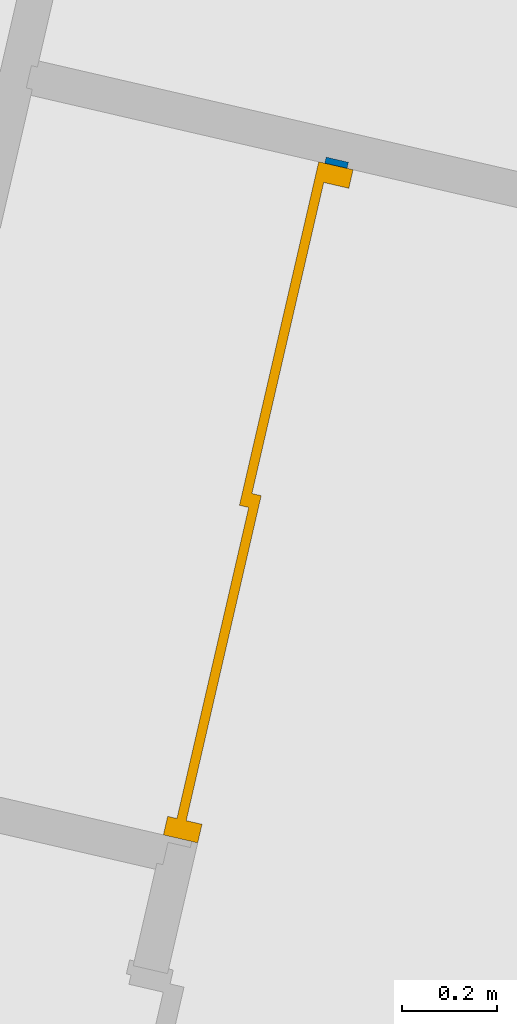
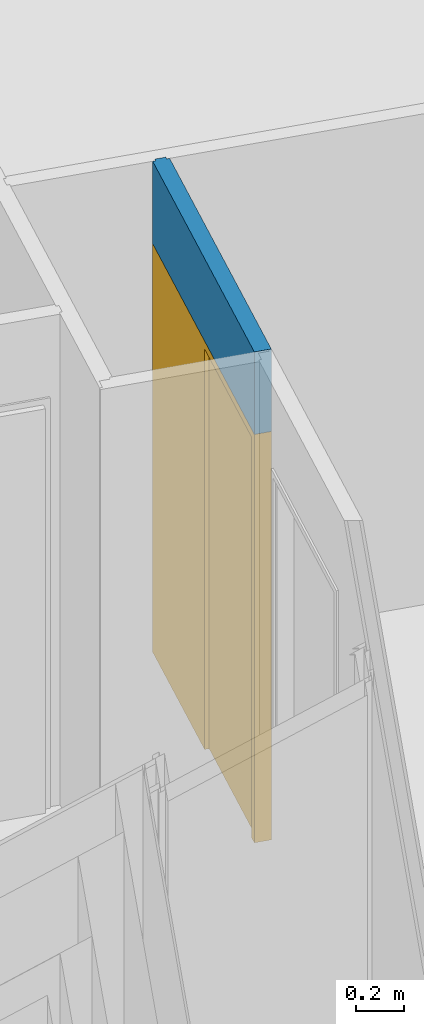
# One storey, part 23 of 91: 1 door, 1 wall, 1 opening.
"""IFC2X3 building model written with IfcOpenShell, lengths in metres."""

from ifc_helpers import new_model, entity, si_unit, converted_unit, derived_unit, money_unit, direction, frame, origin_with_axes, place, context, subcontext, project, spatial, faceted_brep, source, transform, mapped, material, material_list, type_object, element, fill, save


model = new_model("IFC2X3")

# Units and contexts
model_context = context("Model", 3, precision=1e-05, world=origin_with_axes(), true_north=direction((0.0, 1.0)))
body_context = subcontext(model_context, "Body", "Model", "MODEL_VIEW")
ifc_project = project(units=[si_unit("LENGTHUNIT", "METRE"), si_unit("AREAUNIT", "SQUARE_METRE"), si_unit("VOLUMEUNIT", "CUBIC_METRE"), converted_unit("PLANEANGLEUNIT", "DEGREE", entity("IfcPlaneAngleMeasure", 0.0174532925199), si_unit("PLANEANGLEUNIT", "RADIAN"), dimensions=[0, 0, 0, 0, 0, 0, 0]), si_unit("SOLIDANGLEUNIT", "STERADIAN"), money_unit("EUR"), converted_unit("TIMEUNIT", "Year", entity("IfcTimeMeasure", 31556926.0), si_unit("TIMEUNIT", "SECOND"), dimensions=[0, 0, 1, 0, 0, 0, 0]), si_unit("MASSUNIT", "GRAM", prefix="KILO"), si_unit("THERMODYNAMICTEMPERATUREUNIT", "DEGREE_CELSIUS"), si_unit("LUMINOUSINTENSITYUNIT", "LUMEN"), si_unit("ENERGYUNIT", "JOULE", prefix="MEGA"), derived_unit("THERMALCONDUCTANCEUNIT", [(si_unit("POWERUNIT", "WATT"), 1), (si_unit("LENGTHUNIT", "METRE"), -1), (si_unit("THERMODYNAMICTEMPERATUREUNIT", "KELVIN"), -1)]), derived_unit("SPECIFICHEATCAPACITYUNIT", [(si_unit("ENERGYUNIT", "JOULE"), 1), (si_unit("MASSUNIT", "GRAM", prefix="KILO"), -1), (si_unit("THERMODYNAMICTEMPERATUREUNIT", "KELVIN"), -1)]), derived_unit("MASSDENSITYUNIT", [(si_unit("MASSUNIT", "GRAM", prefix="KILO"), 1), (si_unit("VOLUMEUNIT", "CUBIC_METRE"), -1)])], contexts=[model_context])

# Site, building, storey
site_placement = place(None, origin_with_axes())
site = spatial("IfcSite", under=ifc_project, at=site_placement, Name="Site", CompositionType="ELEMENT")
building_placement = place(site_placement, origin_with_axes())
building = spatial("IfcBuilding", under=site, at=building_placement, Name="Bâtiment", CompositionType="ELEMENT")
storey_placement = place(building_placement, frame((0.0, 0.0, 5.44), z_axis=(0.0, 0.0, 1.0), x_axis=(1.0, 0.0, 0.0)))
storey = spatial("IfcBuildingStorey", under=building, at=storey_placement, Name="R+2", CompositionType="ELEMENT", Elevation=5.44)

# Wall, opening, door
ifc_material_1 = material(Name="Finition int - Plaque de plâtre")
ifc_material_2 = material(Name="Isolation - Laine de roche")
ifc_material_list = material_list([ifc_material_1, ifc_material_2, ifc_material_1])
wall_type = type_object("IfcWallType", Name="3 - Cloison 72mm Placostil 74", PredefinedType="USERDEFINED")
wall_placement = place(storey_placement, frame((-5.6459122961, -3.28776935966, 0.0), z_axis=(0.0, 0.0, 1.0), x_axis=(0.224876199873, 0.974387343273, 0.0)))
wall = element("IfcWall", 1, at=wall_placement, inside=storey, type_object=wall_type, material=ifc_material_list, Name="Cloison Placostil 72/48", ObjectType="PARTITIONING", context=body_context, shape_type="Brep", body=[
    faceted_brep([(0.0, 0.061, 2.08), (1.45000000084, 0.061, 2.08), (1.45000000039, 0.061, 2.5), (0.0, 0.061, 2.5), (1.45000000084, 0.074, 2.08), (0.0, 0.074, 2.08), (1.4500000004, 0.074, 2.5), (0.0, 0.074, 2.5)], [[[0, 1, 2, 3]], [[4, 1, 0, 5]], [[1, 4, 6, 2]], [[6, 7, 3, 2]], [[5, 0, 3, 7]], [[4, 5, 7, 6]]]),
    faceted_brep([(1.45000000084, 0.013, 2.08), (1.45000000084, 0.013, 0.0), (1.46300000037, 0.013, 0.0), (1.46300000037, 0.013, 2.5), (0.0, 0.013, 2.5), (0.0, 0.013, 2.08), (1.45000000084, 0.061, 2.08), (1.45000000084, 0.061, 0.0), (1.46300000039, 0.061, 0.0), (1.46300000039, 0.061, 2.5), (0.0, 0.061, 2.5), (0.0, 0.061, 2.08)], [[[0, 1, 2, 3, 4, 5]], [[1, 0, 6, 7]], [[1, 7, 8, 2]], [[8, 9, 3, 2]], [[9, 10, 4, 3]], [[11, 5, 4, 10]], [[0, 5, 11, 6]], [[6, 11, 10, 9, 8, 7]]]),
    faceted_brep([(0.0, 0.0, 2.08), (1.45000000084, 0.0, 2.08), (1.45000000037, 0.0, 2.5), (0.0, 0.0, 2.5), (1.45000000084, 0.013, 2.08), (0.0, 0.013, 2.08), (1.45000000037, 0.013, 2.5), (0.0, 0.013, 2.5)], [[[0, 1, 2, 3]], [[4, 1, 0, 5]], [[1, 4, 6, 2]], [[6, 7, 3, 2]], [[5, 0, 3, 7]], [[4, 5, 7, 6]]]),
])
opening_placement = place(wall_placement, frame((0.72500000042, 0.0, 0.0), z_axis=(0.0, 0.0, 1.0), x_axis=(1.0, 0.0, 0.0)))
opening = element("IfcOpeningElement", 2, at=opening_placement, cuts=wall, Name="Por-002", context=body_context, shape_type="Brep", body=[
    faceted_brep([(0.72500000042, -0.074, 0.0), (-0.72500000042, -0.074, 0.0), (-0.72500000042, 0.074, 0.0), (0.72500000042, 0.074, 0.0), (0.72500000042, -0.074, 2.08), (-0.72500000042, -0.074, 2.08), (-0.72500000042, 0.074, 2.08), (0.72500000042, 0.074, 2.08)], [[[0, 1, 2, 3]], [[0, 4, 5, 1]], [[1, 5, 6, 2]], [[3, 2, 6, 7]], [[4, 0, 3, 7]], [[5, 4, 7, 6]]]),
])
door_style = type_object("IfcDoorStyle", Name="Porte int générique 2019", ConstructionType="NOTDEFINED", OperationType="USERDEFINED", ParameterTakesPrecedence=False, Sizeable=False)
shared_shape = source(origin_with_axes(), body_context, "Body", "Brep", [
    faceted_brep([(0.72500000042, -0.006, 0.0), (0.68500000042, -0.006, 0.0), (0.68500000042, -0.006, 2.04), (-0.68500000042, -0.006, 2.04), (-0.68500000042, -0.006, 0.0), (-0.72500000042, -0.006, 0.0), (-0.72500000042, -0.006, 2.08), (0.72500000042, -0.006, 2.08), (0.72500000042, -0.08, 0.0), (0.68500000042, -0.08, 0.0), (0.68500000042, -0.08, 2.04), (-0.68500000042, -0.08, 2.04), (-0.68500000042, -0.08, 0.0), (-0.72500000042, -0.08, 0.0), (-0.72500000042, -0.08, 2.08), (0.72500000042, -0.08, 2.08)], [[[0, 1, 2, 3, 4, 5, 6, 7]], [[0, 8, 9, 1]], [[1, 9, 10, 2]], [[2, 10, 11, 3]], [[3, 11, 12, 4]], [[5, 4, 12, 13]], [[14, 6, 5, 13]], [[15, 7, 6, 14]], [[8, 0, 7, 15]], [[9, 8, 15, 14, 13, 12, 11, 10]]]),
    faceted_brep([(0.68500000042, -0.006, 0.0), (0.68500000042, -0.026, 0.0), (-0.015, -0.026, 0.0), (-0.015, -0.006, 0.0), (0.68500000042, -0.006, 2.04), (0.68500000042, -0.026, 2.04), (-0.015, -0.026, 2.04), (-0.015, -0.006, 2.04)], [[[0, 1, 2, 3]], [[4, 5, 1, 0]], [[1, 5, 6, 2]], [[3, 2, 6, 7]], [[0, 3, 7, 4]], [[7, 6, 5, 4]]]),
    faceted_brep([(0.015, -0.026, 0.0), (0.015, -0.046, 0.0), (-0.68500000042, -0.046, 0.0), (-0.68500000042, -0.026, 0.0), (0.015, -0.026, 2.04), (0.015, -0.046, 2.04), (-0.68500000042, -0.046, 2.04), (-0.68500000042, -0.026, 2.04)], [[[0, 1, 2, 3]], [[4, 5, 1, 0]], [[1, 5, 6, 2]], [[3, 2, 6, 7]], [[0, 3, 7, 4]], [[7, 6, 5, 4]]]),
])
door_placement = place(opening_placement, frame((-0.68500000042, 0.0, 0.0), z_axis=(0.0, 0.0, 1.0), x_axis=(1.0, 0.0, 0.0)))
door = element("IfcDoor", 3, at=door_placement, inside=storey, type_object=door_style, Name="Por-002", ObjectType="DOOR", OverallHeight=2.04, OverallWidth=1.37, context=body_context, shape_type="MappedRepresentation", body=[
    mapped(shared_shape, transform((0.68500000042, 0.08, 0.0))),
])
fill(opening, door)

save(model, "model.ifc")
